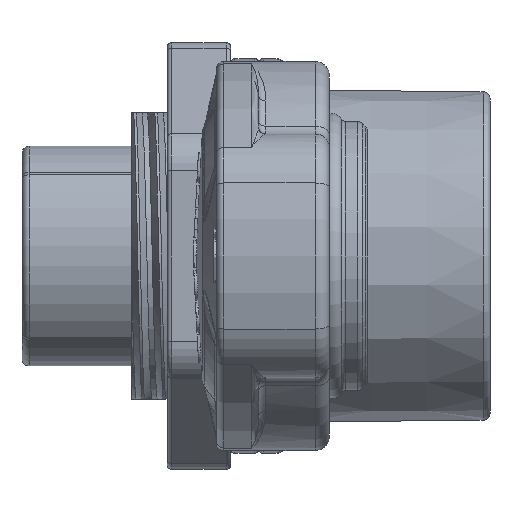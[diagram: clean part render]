
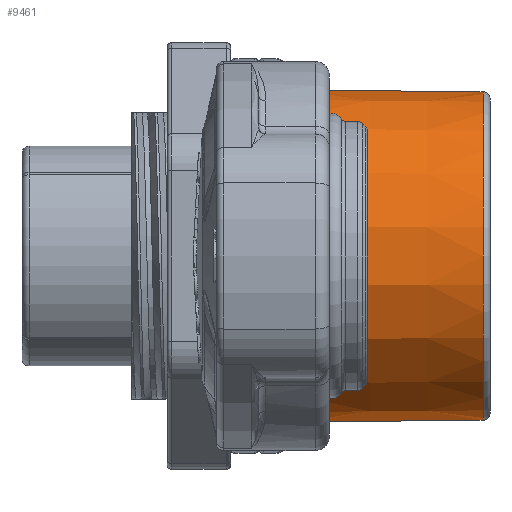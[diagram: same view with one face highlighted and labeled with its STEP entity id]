
A CAD part, front view. The second image highlights one B-rep face of the part: STEP entity #9461.
In plain terms, the highlighted conical face has half-angle 0.5 degrees and reference radius 11.65 mm.
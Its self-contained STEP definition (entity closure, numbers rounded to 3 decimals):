
#749 = CARTESIAN_POINT ( 'NONE',  ( 0., 0., -11.65 ) ) ;
#903 = AXIS2_PLACEMENT_3D ( 'NONE', #6840, #6231, #35402 ) ;
#1562 = VERTEX_POINT ( 'NONE', #15766 ) ;
#2045 = CARTESIAN_POINT ( 'NONE',  ( -0.496, 0., 11.654 ) ) ;
#3211 = EDGE_CURVE ( 'NONE', #15735, #54822, #44850, .T. ) ;
#3461 = DIRECTION ( 'NONE',  ( 0., 0., -1. ) ) ;
#4325 = CARTESIAN_POINT ( 'NONE',  ( -12.425, -1.34, -11.687 ) ) ;
#4957 = VERTEX_POINT ( 'NONE', #5049 ) ;
#5049 = CARTESIAN_POINT ( 'NONE',  ( -0.496, 0., -11.654 ) ) ;
#5057 = VECTOR ( 'NONE', #60949, 1000. ) ;
#6231 = DIRECTION ( 'NONE',  ( 1., 0., 0. ) ) ;
#6624 = DIRECTION ( 'NONE',  ( 0., 0., 1. ) ) ;
#6840 = CARTESIAN_POINT ( 'NONE',  ( -12.404, 0., 0. ) ) ;
#8120 = CARTESIAN_POINT ( 'NONE',  ( -12.477, -0.335, -11.759 ) ) ;
#9461 = ADVANCED_FACE ( 'NONE', ( #50029 ), #42042, .T. ) ;
#10928 = CARTESIAN_POINT ( 'NONE',  ( -12.404, -1.674, 11.643 ) ) ;
#12542 = LINE ( 'NONE', #37250, #5057 ) ;
#12955 = AXIS2_PLACEMENT_3D ( 'NONE', #51594, #42127, #3461 ) ;
#15259 = DIRECTION ( 'NONE',  ( -1., 0., 0. ) ) ;
#15735 = VERTEX_POINT ( 'NONE', #18684 ) ;
#15766 = CARTESIAN_POINT ( 'NONE',  ( -12.477, 0., -11.759 ) ) ;
#17127 = DIRECTION ( 'NONE',  ( -1., 0., -0.009 ) ) ;
#18684 = CARTESIAN_POINT ( 'NONE',  ( -12.477, 0., 11.759 ) ) ;
#19687 = ORIENTED_EDGE ( 'NONE', *, *, #55330, .T. ) ;
#22095 = ORIENTED_EDGE ( 'NONE', *, *, #52932, .T. ) ;
#22651 = VERTEX_POINT ( 'NONE', #27488 ) ;
#22949 = VERTEX_POINT ( 'NONE', #2045 ) ;
#22968 = ORIENTED_EDGE ( 'NONE', *, *, #3211, .T. ) ;
#23673 = CARTESIAN_POINT ( 'NONE',  ( -12.462, -0.67, -11.744 ) ) ;
#24331 = EDGE_LOOP ( 'NONE', ( #30059, #22095, #45577, #22968, #19687, #53520 ) ) ;
#25302 = EDGE_CURVE ( 'NONE', #22651, #1562, #27068, .T. ) ;
#27068 = B_SPLINE_CURVE_WITH_KNOTS ( 'NONE', 3,
 ( #47731, #52779, #4325, #23673, #8120, #42040 ),
 .UNSPECIFIED., .F., .F.,
 ( 4, 2, 4 ),
 ( 0., 0.001, 0.002 ),
 .UNSPECIFIED. ) ;
#27488 = CARTESIAN_POINT ( 'NONE',  ( -12.404, -2.007, -11.586 ) ) ;
#30059 = ORIENTED_EDGE ( 'NONE', *, *, #60698, .F. ) ;
#30277 = CARTESIAN_POINT ( 'NONE',  ( -12.404, -2.007, 11.586 ) ) ;
#30949 = AXIS2_PLACEMENT_3D ( 'NONE', #58599, #15259, #6624 ) ;
#32180 = CIRCLE ( 'NONE', #12955, 11.654 ) ;
#35030 = CARTESIAN_POINT ( 'NONE',  ( -12.477, 0., 11.759 ) ) ;
#35402 = DIRECTION ( 'NONE',  ( 0., 0., 1. ) ) ;
#36715 = EDGE_CURVE ( 'NONE', #22949, #15735, #12542, .T. ) ;
#37250 = CARTESIAN_POINT ( 'NONE',  ( 0., 0., 11.65 ) ) ;
#39152 = CARTESIAN_POINT ( 'NONE',  ( -12.477, -0.335, 11.759 ) ) ;
#39461 = CARTESIAN_POINT ( 'NONE',  ( -12.462, -0.67, 11.744 ) ) ;
#42040 = CARTESIAN_POINT ( 'NONE',  ( -12.477, 0., -11.759 ) ) ;
#42042 = CONICAL_SURFACE ( 'NONE', #30949, 11.65, 0.009 ) ;
#42127 = DIRECTION ( 'NONE',  ( -1., 0., 0. ) ) ;
#43414 = CARTESIAN_POINT ( 'NONE',  ( -12.404, -2.007, 11.586 ) ) ;
#44850 = B_SPLINE_CURVE_WITH_KNOTS ( 'NONE', 3,
 ( #35030, #39152, #39461, #54300, #10928, #30277 ),
 .UNSPECIFIED., .F., .F.,
 ( 4, 2, 4 ),
 ( 0.002, 0.003, 0.004 ),
 .UNSPECIFIED. ) ;
#45577 = ORIENTED_EDGE ( 'NONE', *, *, #36715, .T. ) ;
#47731 = CARTESIAN_POINT ( 'NONE',  ( -12.404, -2.007, -11.586 ) ) ;
#50029 = FACE_OUTER_BOUND ( 'NONE', #24331, .T. ) ;
#50716 = VECTOR ( 'NONE', #17127, 1000. ) ;
#51594 = CARTESIAN_POINT ( 'NONE',  ( -0.496, 0., 0. ) ) ;
#52779 = CARTESIAN_POINT ( 'NONE',  ( -12.404, -1.674, -11.643 ) ) ;
#52932 = EDGE_CURVE ( 'NONE', #4957, #22949, #32180, .T. ) ;
#53520 = ORIENTED_EDGE ( 'NONE', *, *, #25302, .T. ) ;
#54300 = CARTESIAN_POINT ( 'NONE',  ( -12.425, -1.34, 11.687 ) ) ;
#54822 = VERTEX_POINT ( 'NONE', #43414 ) ;
#55330 = EDGE_CURVE ( 'NONE', #54822, #22651, #62615, .T. ) ;
#55732 = LINE ( 'NONE', #749, #50716 ) ;
#58599 = CARTESIAN_POINT ( 'NONE',  ( 0., 0., 0. ) ) ;
#60698 = EDGE_CURVE ( 'NONE', #4957, #1562, #55732, .T. ) ;
#60949 = DIRECTION ( 'NONE',  ( -1., 0., 0.009 ) ) ;
#62615 = CIRCLE ( 'NONE', #903, 11.758 ) ;
